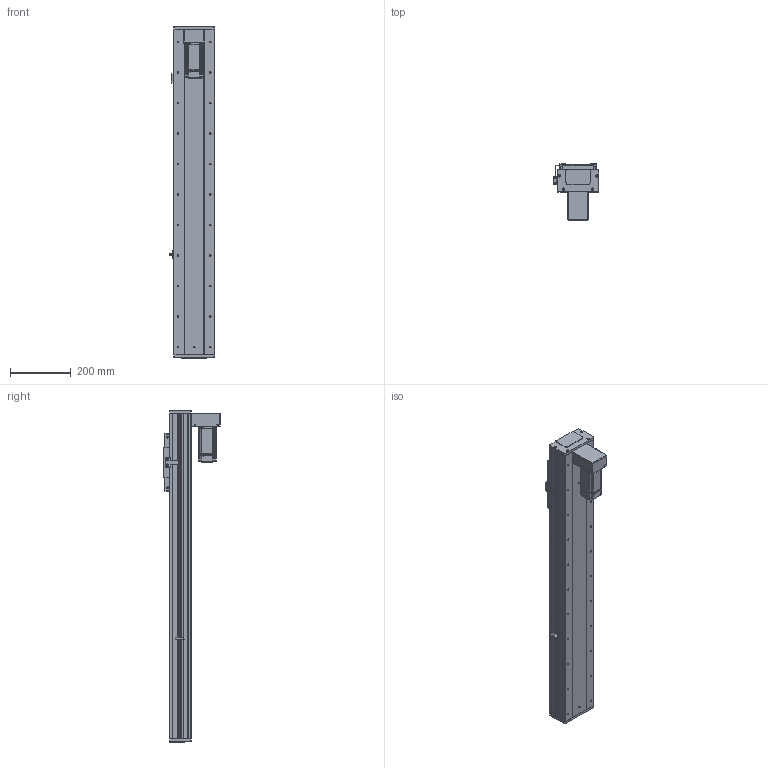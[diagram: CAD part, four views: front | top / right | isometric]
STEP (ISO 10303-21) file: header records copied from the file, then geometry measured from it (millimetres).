
FILE_DESCRIPTION (( 'STEP AP203' ), '1' );
FILE_NAME ('RY140F-L2020-300-BK.SLDASM_800.step', '2021-03-02T08:27:01', ( '盈信电脑' ), ( '东莞市道滘镇水果街19号' ), 'SwSTEP 2.0', 'SolidWorks 2012', '' );
FILE_SCHEMA (( 'CONFIG_CONTROL_DESIGN' ));
Length unit declared in the file: millimetre
Products named in the file (21): RY140F-300-BK倰第奻裔啣_800; RY140F-300-BK倰第菁釱_800; RY140F-滅鳥奻裔; RY140F-直连型材铝滑块连接座; RY140F-詩湍幗謫粣; RY140F-300-BK蛌殏詩湍_800; RY140F-L2020-300-BK.SLDASM_800; RY140F-直连型材铝滑块(16丝杆); 滅袉蝶18-10; RY140F-狟殏萇儂欶(400W); RY140F-狟殏萇儂啣(400W M5); RY140F-詩湍嘐隅輸; 侐源滅袉蝶; RY140F-672覜茼んえ; RY140F-詩湍揤え; 15; 覜茼ん672; 侂狟400W侜督萇儂; RY140F-后盖板(铝件）; RY100F-詩湍揤踡謫; 藻笠沭
Assembly tree (26 placements, depth 3):
  RY140F-L2020-300-BK.SLDASM_800
    RY140F-300-BK倰第菁釱_800
    RY140F-300-BK倰第奻裔啣_800  x2
    RY140F-300-BK蛌殏詩湍_800
    RY140F-直连型材铝滑块连接座
    RY140F-滅鳥奻裔
    RY140F-詩湍幗謫粣
    藻笠沭  x2
    RY100F-詩湍揤踡謫
    RY140F-后盖板(铝件）  x2
    侂狟400W侜督萇儂
      15
    覜茼ん672
    RY140F-672覜茼んえ
    RY140F-詩湍揤え  x2
    侐源滅袉蝶  x2
    RY140F-狟殏萇儂啣(400W M5)
    RY140F-狟殏萇儂欶(400W)
    RY140F-詩湍嘐隅輸
    滅袉蝶18-10  x2
    RY140F-直连型材铝滑块(16丝杆)
Bounding box: 148.7 x 184.5 x 1089 mm (x, y, z)
Volume: 4219056.1 mm3; surface area: 1500542.8 mm2
Topology: 25 solids, 25 shells, 2040 faces, 5580 edges, 3554 vertices
Faces by surface type: cylinder 991, plane 811, cone 212, bspline 22, torus 4
Entity records: 64176 total; most frequent: CARTESIAN_POINT 13465, DIRECTION 10251, ORIENTED_EDGE 9964, EDGE_CURVE 4982, AXIS2_PLACEMENT_3D 3668, VERTEX_POINT 3258, VECTOR 2915, LINE 2915
